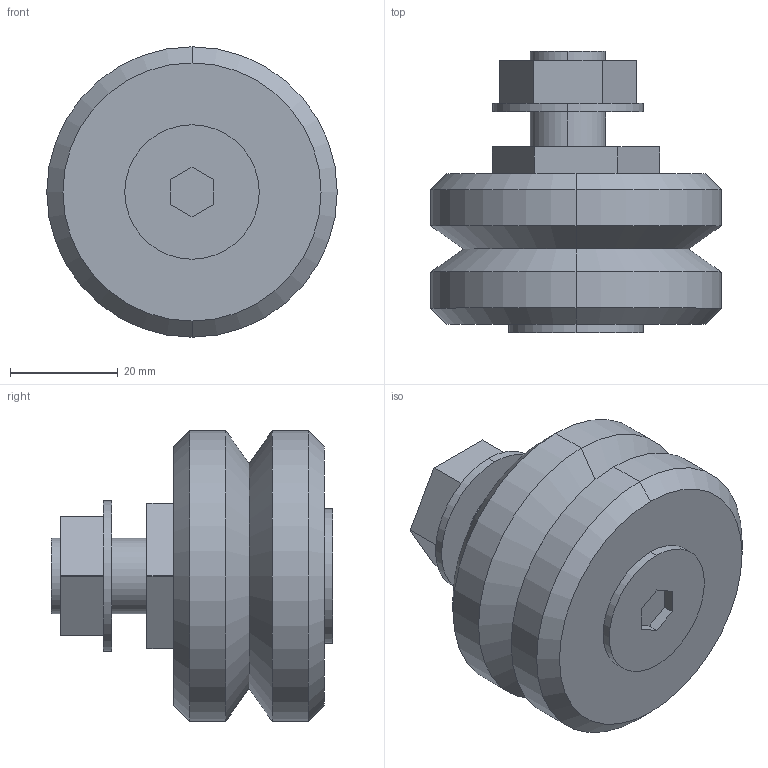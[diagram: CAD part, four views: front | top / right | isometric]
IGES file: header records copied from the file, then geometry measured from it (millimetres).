
Start section: 3D InterOp IGES (v. 2019 1.0.2), Spatial Corp. Copyright (c) 1999-2017.
Global section: file name: SS SJ54 E.igs; native system: Spatial Corp.; preprocessor: 3D InterOp GENERIC/IGES 3.0; author: Noname; organization: Noname; date: 20220628.114804; units: millimetre
Bounding box: 54 x 52.4 x 54 mm (x, y, z)
Surface area: 12250.3 mm2 (no closed solid volume)
Topology: 0 solids, 0 shells, 54 faces, 244 edges, 244 vertices
Faces by surface type: extrusion 34, revolution 20
